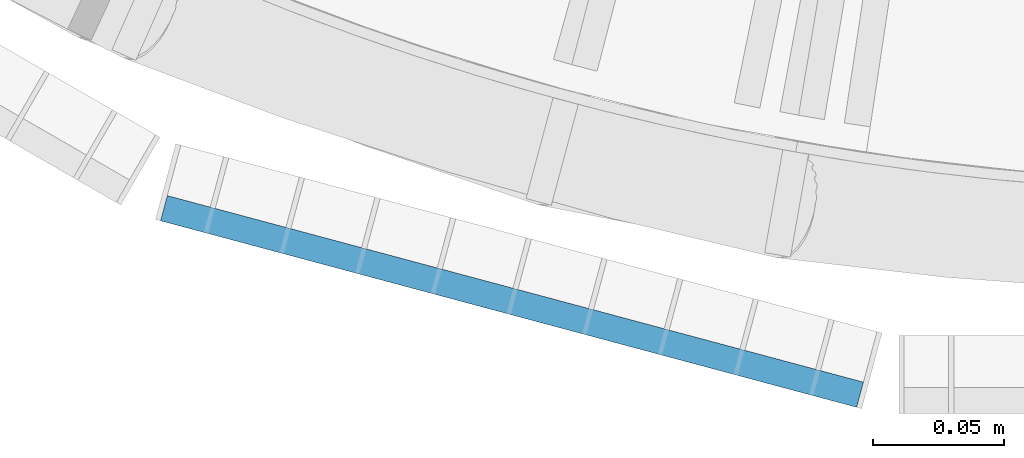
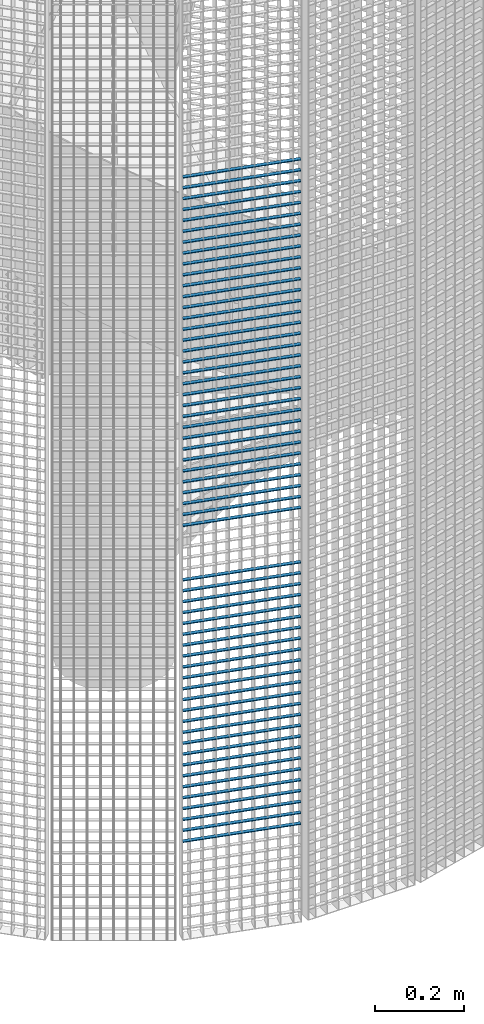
# One storey, part 386 of 1183: 58 beams, 1 element without a shape of its own.
"""IFC2X3 building model written with IfcOpenShell, lengths in millimetres."""

from ifc_helpers import new_model, si_unit, frame, origin_with_axes, origin_2d_with_axis, place, context, subcontext, project, spatial, rectangle, extrude, material, type_object, element, aggregate, save


model = new_model("IFC2X3")

# Units and contexts
model_context = context("Model", 3, precision=1e-05, world=origin_with_axes())
body_context = subcontext(model_context, "Body", "Model", "MODEL_VIEW")
ifc_project = project(units=[si_unit("LENGTHUNIT", "METRE", prefix="MILLI"), si_unit("AREAUNIT", "SQUARE_METRE"), si_unit("VOLUMEUNIT", "CUBIC_METRE"), si_unit("MASSUNIT", "GRAM", prefix="KILO"), si_unit("TIMEUNIT", "SECOND"), si_unit("PLANEANGLEUNIT", "RADIAN"), si_unit("SOLIDANGLEUNIT", "STERADIAN"), si_unit("THERMODYNAMICTEMPERATUREUNIT", "DEGREE_CELSIUS"), si_unit("LUMINOUSINTENSITYUNIT", "LUMEN")], contexts=[model_context])

# Site, building, storey
site_placement = place(None, origin_with_axes())
site = spatial("IfcSite", under=ifc_project, at=site_placement, Name="Undefined", CompositionType="ELEMENT")
building_placement = place(site_placement, origin_with_axes())
building = spatial("IfcBuilding", under=site, at=building_placement, Name="Undefined", CompositionType="ELEMENT")
storey_placement = place(building_placement, origin_with_axes())
storey = spatial("IfcBuildingStorey", under=building, at=storey_placement, Name="Undefined", CompositionType="ELEMENT", Elevation=0.0)

# Assembly, beams
assembly_placement = place(storey_placement, origin_with_axes())
assembly = element("IfcElementAssembly", 1, at=assembly_placement, inside=storey, Name="BORDURE", AssemblyPlace="NOTDEFINED", PredefinedType="NOTDEFINED")
ifc_material = material(Name="STEEL/S235JR")
beam_type = type_object("IfcBeamType", Name="PL2*10", PredefinedType="NOTDEFINED")
beam_1_placement = place(assembly_placement, frame((21445.1040732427, -1111.25508286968, 2100.0), z_axis=(-0.258819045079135, -0.965925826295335, 0.0), x_axis=(-0.965925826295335, 0.258819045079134, 0.0)))
beam_1 = element("IfcBeam", 2, at=beam_1_placement, type_object=beam_type, material=ifc_material, Name="ENTRETOISE", context=body_context, shape_type="SweptSolid", body=[
    extrude(rectangle(XDim=2.0, YDim=10.0, at=origin_2d_with_axis()), frame((275.999999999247, 9.09494701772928e-13, 1.53210777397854e-14), z_axis=(-1.0, 0.0, 0.0), x_axis=(0.0, -1.0, 0.0)), (0.0, 0.0, 1.0), 276.0),
])
beam_2_placement = place(assembly_placement, frame((21445.1040732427, -1111.25508286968, 2070.0), z_axis=(-0.258819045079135, -0.965925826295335, 0.0), x_axis=(-0.965925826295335, 0.258819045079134, 0.0)))
beam_2 = element("IfcBeam", 3, at=beam_2_placement, type_object=beam_type, material=ifc_material, Name="ENTRETOISE", context=body_context, shape_type="SweptSolid", body=[
    extrude(rectangle(XDim=2.0, YDim=10.0, at=origin_2d_with_axis()), frame((275.999999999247, 9.09494701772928e-13, 1.53210777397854e-14), z_axis=(-1.0, 0.0, 0.0), x_axis=(0.0, -1.0, 0.0)), (0.0, 0.0, 1.0), 276.0),
])
beam_3_placement = place(assembly_placement, frame((21445.1040732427, -1111.25508286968, 2040.0), z_axis=(-0.258819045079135, -0.965925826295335, 0.0), x_axis=(-0.965925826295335, 0.258819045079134, 0.0)))
beam_3 = element("IfcBeam", 4, at=beam_3_placement, type_object=beam_type, material=ifc_material, Name="ENTRETOISE", context=body_context, shape_type="SweptSolid", body=[
    extrude(rectangle(XDim=2.0, YDim=10.0, at=origin_2d_with_axis()), frame((275.999999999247, 9.09494701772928e-13, 1.53210777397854e-14), z_axis=(-1.0, 0.0, 0.0), x_axis=(0.0, -1.0, 0.0)), (0.0, 0.0, 1.0), 276.0),
])
beam_4_placement = place(assembly_placement, frame((21445.1040732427, -1111.25508286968, 2010.0), z_axis=(-0.258819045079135, -0.965925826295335, 0.0), x_axis=(-0.965925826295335, 0.258819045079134, 0.0)))
beam_4 = element("IfcBeam", 5, at=beam_4_placement, type_object=beam_type, material=ifc_material, Name="ENTRETOISE", context=body_context, shape_type="SweptSolid", body=[
    extrude(rectangle(XDim=2.0, YDim=10.0, at=origin_2d_with_axis()), frame((275.999999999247, 9.09494701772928e-13, 1.53210777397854e-14), z_axis=(-1.0, 0.0, 0.0), x_axis=(0.0, -1.0, 0.0)), (0.0, 0.0, 1.0), 276.0),
])
beam_5_placement = place(assembly_placement, frame((21445.1040732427, -1111.25508286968, 1980.0), z_axis=(-0.258819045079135, -0.965925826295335, 0.0), x_axis=(-0.965925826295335, 0.258819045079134, 0.0)))
beam_5 = element("IfcBeam", 6, at=beam_5_placement, type_object=beam_type, material=ifc_material, Name="ENTRETOISE", context=body_context, shape_type="SweptSolid", body=[
    extrude(rectangle(XDim=2.0, YDim=10.0, at=origin_2d_with_axis()), frame((275.999999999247, 9.09494701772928e-13, 1.53210777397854e-14), z_axis=(-1.0, 0.0, 0.0), x_axis=(0.0, -1.0, 0.0)), (0.0, 0.0, 1.0), 276.0),
])
beam_6_placement = place(assembly_placement, frame((21445.1040732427, -1111.25508286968, 1950.0), z_axis=(-0.258819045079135, -0.965925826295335, 0.0), x_axis=(-0.965925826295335, 0.258819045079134, 0.0)))
beam_6 = element("IfcBeam", 7, at=beam_6_placement, type_object=beam_type, material=ifc_material, Name="ENTRETOISE", context=body_context, shape_type="SweptSolid", body=[
    extrude(rectangle(XDim=2.0, YDim=10.0, at=origin_2d_with_axis()), frame((275.999999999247, 9.09494701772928e-13, 1.53210777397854e-14), z_axis=(-1.0, 0.0, 0.0), x_axis=(0.0, -1.0, 0.0)), (0.0, 0.0, 1.0), 276.0),
])
beam_7_placement = place(assembly_placement, frame((21445.1040732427, -1111.25508286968, 1920.0), z_axis=(-0.258819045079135, -0.965925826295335, 0.0), x_axis=(-0.965925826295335, 0.258819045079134, 0.0)))
beam_7 = element("IfcBeam", 8, at=beam_7_placement, type_object=beam_type, material=ifc_material, Name="ENTRETOISE", context=body_context, shape_type="SweptSolid", body=[
    extrude(rectangle(XDim=2.0, YDim=10.0, at=origin_2d_with_axis()), frame((275.999999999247, 9.09494701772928e-13, 1.53210777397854e-14), z_axis=(-1.0, 0.0, 0.0), x_axis=(0.0, -1.0, 0.0)), (0.0, 0.0, 1.0), 276.0),
])
beam_8_placement = place(assembly_placement, frame((21445.1040732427, -1111.25508286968, 1890.0), z_axis=(-0.258819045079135, -0.965925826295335, 0.0), x_axis=(-0.965925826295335, 0.258819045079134, 0.0)))
beam_8 = element("IfcBeam", 9, at=beam_8_placement, type_object=beam_type, material=ifc_material, Name="ENTRETOISE", context=body_context, shape_type="SweptSolid", body=[
    extrude(rectangle(XDim=2.0, YDim=10.0, at=origin_2d_with_axis()), frame((275.999999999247, 9.09494701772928e-13, 1.53210777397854e-14), z_axis=(-1.0, 0.0, 0.0), x_axis=(0.0, -1.0, 0.0)), (0.0, 0.0, 1.0), 276.0),
])
beam_9_placement = place(assembly_placement, frame((21445.1040732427, -1111.25508286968, 1860.0), z_axis=(-0.258819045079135, -0.965925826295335, 0.0), x_axis=(-0.965925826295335, 0.258819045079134, 0.0)))
beam_9 = element("IfcBeam", 10, at=beam_9_placement, type_object=beam_type, material=ifc_material, Name="ENTRETOISE", context=body_context, shape_type="SweptSolid", body=[
    extrude(rectangle(XDim=2.0, YDim=10.0, at=origin_2d_with_axis()), frame((275.999999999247, 9.09494701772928e-13, 1.53210777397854e-14), z_axis=(-1.0, 0.0, 0.0), x_axis=(0.0, -1.0, 0.0)), (0.0, 0.0, 1.0), 276.0),
])
beam_10_placement = place(assembly_placement, frame((21445.1040732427, -1111.25508286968, 1830.0), z_axis=(-0.258819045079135, -0.965925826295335, 0.0), x_axis=(-0.965925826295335, 0.258819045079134, 0.0)))
beam_10 = element("IfcBeam", 11, at=beam_10_placement, type_object=beam_type, material=ifc_material, Name="ENTRETOISE", context=body_context, shape_type="SweptSolid", body=[
    extrude(rectangle(XDim=2.0, YDim=10.0, at=origin_2d_with_axis()), frame((275.999999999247, 9.09494701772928e-13, 1.53210777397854e-14), z_axis=(-1.0, 0.0, 0.0), x_axis=(0.0, -1.0, 0.0)), (0.0, 0.0, 1.0), 276.0),
])
beam_11_placement = place(assembly_placement, frame((21445.1040732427, -1111.25508286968, 1800.0), z_axis=(-0.258819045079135, -0.965925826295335, 0.0), x_axis=(-0.965925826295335, 0.258819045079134, 0.0)))
beam_11 = element("IfcBeam", 12, at=beam_11_placement, type_object=beam_type, material=ifc_material, Name="ENTRETOISE", context=body_context, shape_type="SweptSolid", body=[
    extrude(rectangle(XDim=2.0, YDim=10.0, at=origin_2d_with_axis()), frame((275.999999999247, 9.09494701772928e-13, 1.53210777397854e-14), z_axis=(-1.0, 0.0, 0.0), x_axis=(0.0, -1.0, 0.0)), (0.0, 0.0, 1.0), 276.0),
])
beam_12_placement = place(assembly_placement, frame((21445.1040732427, -1111.25508286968, 1770.0), z_axis=(-0.258819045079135, -0.965925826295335, 0.0), x_axis=(-0.965925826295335, 0.258819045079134, 0.0)))
beam_12 = element("IfcBeam", 13, at=beam_12_placement, type_object=beam_type, material=ifc_material, Name="ENTRETOISE", context=body_context, shape_type="SweptSolid", body=[
    extrude(rectangle(XDim=2.0, YDim=10.0, at=origin_2d_with_axis()), frame((275.999999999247, 9.09494701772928e-13, 1.53210777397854e-14), z_axis=(-1.0, 0.0, 0.0), x_axis=(0.0, -1.0, 0.0)), (0.0, 0.0, 1.0), 276.0),
])
beam_13_placement = place(assembly_placement, frame((21445.1040732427, -1111.25508286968, 1740.0), z_axis=(-0.258819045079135, -0.965925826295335, 0.0), x_axis=(-0.965925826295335, 0.258819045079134, 0.0)))
beam_13 = element("IfcBeam", 14, at=beam_13_placement, type_object=beam_type, material=ifc_material, Name="ENTRETOISE", context=body_context, shape_type="SweptSolid", body=[
    extrude(rectangle(XDim=2.0, YDim=10.0, at=origin_2d_with_axis()), frame((275.999999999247, 9.09494701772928e-13, 1.53210777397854e-14), z_axis=(-1.0, 0.0, 0.0), x_axis=(0.0, -1.0, 0.0)), (0.0, 0.0, 1.0), 276.0),
])
beam_14_placement = place(assembly_placement, frame((21445.1040732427, -1111.25508286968, 1710.0), z_axis=(-0.258819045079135, -0.965925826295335, 0.0), x_axis=(-0.965925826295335, 0.258819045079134, 0.0)))
beam_14 = element("IfcBeam", 15, at=beam_14_placement, type_object=beam_type, material=ifc_material, Name="ENTRETOISE", context=body_context, shape_type="SweptSolid", body=[
    extrude(rectangle(XDim=2.0, YDim=10.0, at=origin_2d_with_axis()), frame((275.999999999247, 9.09494701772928e-13, 1.53210777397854e-14), z_axis=(-1.0, 0.0, 0.0), x_axis=(0.0, -1.0, 0.0)), (0.0, 0.0, 1.0), 276.0),
])
beam_15_placement = place(assembly_placement, frame((21445.1040732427, -1111.25508286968, 1680.0), z_axis=(-0.258819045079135, -0.965925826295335, 0.0), x_axis=(-0.965925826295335, 0.258819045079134, 0.0)))
beam_15 = element("IfcBeam", 16, at=beam_15_placement, type_object=beam_type, material=ifc_material, Name="ENTRETOISE", context=body_context, shape_type="SweptSolid", body=[
    extrude(rectangle(XDim=2.0, YDim=10.0, at=origin_2d_with_axis()), frame((275.999999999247, 9.09494701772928e-13, 1.53210777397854e-14), z_axis=(-1.0, 0.0, 0.0), x_axis=(0.0, -1.0, 0.0)), (0.0, 0.0, 1.0), 276.0),
])
beam_16_placement = place(assembly_placement, frame((21445.1040732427, -1111.25508286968, 1650.0), z_axis=(-0.258819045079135, -0.965925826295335, 0.0), x_axis=(-0.965925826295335, 0.258819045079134, 0.0)))
beam_16 = element("IfcBeam", 17, at=beam_16_placement, type_object=beam_type, material=ifc_material, Name="ENTRETOISE", context=body_context, shape_type="SweptSolid", body=[
    extrude(rectangle(XDim=2.0, YDim=10.0, at=origin_2d_with_axis()), frame((275.999999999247, 9.09494701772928e-13, 1.53210777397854e-14), z_axis=(-1.0, 0.0, 0.0), x_axis=(0.0, -1.0, 0.0)), (0.0, 0.0, 1.0), 276.0),
])
beam_17_placement = place(assembly_placement, frame((21445.1040732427, -1111.25508286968, 1620.0), z_axis=(-0.258819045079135, -0.965925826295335, 0.0), x_axis=(-0.965925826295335, 0.258819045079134, 0.0)))
beam_17 = element("IfcBeam", 18, at=beam_17_placement, type_object=beam_type, material=ifc_material, Name="ENTRETOISE", context=body_context, shape_type="SweptSolid", body=[
    extrude(rectangle(XDim=2.0, YDim=10.0, at=origin_2d_with_axis()), frame((275.999999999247, 9.09494701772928e-13, 1.53210777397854e-14), z_axis=(-1.0, 0.0, 0.0), x_axis=(0.0, -1.0, 0.0)), (0.0, 0.0, 1.0), 276.0),
])
beam_18_placement = place(assembly_placement, frame((21445.1040732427, -1111.25508286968, 1590.0), z_axis=(-0.258819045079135, -0.965925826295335, 0.0), x_axis=(-0.965925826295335, 0.258819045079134, 0.0)))
beam_18 = element("IfcBeam", 19, at=beam_18_placement, type_object=beam_type, material=ifc_material, Name="ENTRETOISE", context=body_context, shape_type="SweptSolid", body=[
    extrude(rectangle(XDim=2.0, YDim=10.0, at=origin_2d_with_axis()), frame((275.999999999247, 9.09494701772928e-13, 1.53210777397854e-14), z_axis=(-1.0, 0.0, 0.0), x_axis=(0.0, -1.0, 0.0)), (0.0, 0.0, 1.0), 276.0),
])
beam_19_placement = place(assembly_placement, frame((21445.1040732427, -1111.25508286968, 1560.0), z_axis=(-0.258819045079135, -0.965925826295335, 0.0), x_axis=(-0.965925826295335, 0.258819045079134, 0.0)))
beam_19 = element("IfcBeam", 20, at=beam_19_placement, type_object=beam_type, material=ifc_material, Name="ENTRETOISE", context=body_context, shape_type="SweptSolid", body=[
    extrude(rectangle(XDim=2.0, YDim=10.0, at=origin_2d_with_axis()), frame((275.999999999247, 9.09494701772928e-13, 1.53210777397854e-14), z_axis=(-1.0, 0.0, 0.0), x_axis=(0.0, -1.0, 0.0)), (0.0, 0.0, 1.0), 276.0),
])
beam_20_placement = place(assembly_placement, frame((21445.1040732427, -1111.25508286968, 1530.0), z_axis=(-0.258819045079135, -0.965925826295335, 0.0), x_axis=(-0.965925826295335, 0.258819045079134, 0.0)))
beam_20 = element("IfcBeam", 21, at=beam_20_placement, type_object=beam_type, material=ifc_material, Name="ENTRETOISE", context=body_context, shape_type="SweptSolid", body=[
    extrude(rectangle(XDim=2.0, YDim=10.0, at=origin_2d_with_axis()), frame((275.999999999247, 9.09494701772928e-13, 1.53210777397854e-14), z_axis=(-1.0, 0.0, 0.0), x_axis=(0.0, -1.0, 0.0)), (0.0, 0.0, 1.0), 276.0),
])
beam_21_placement = place(assembly_placement, frame((21445.1040732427, -1111.25508286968, 1500.0), z_axis=(-0.258819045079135, -0.965925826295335, 0.0), x_axis=(-0.965925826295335, 0.258819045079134, 0.0)))
beam_21 = element("IfcBeam", 22, at=beam_21_placement, type_object=beam_type, material=ifc_material, Name="ENTRETOISE", context=body_context, shape_type="SweptSolid", body=[
    extrude(rectangle(XDim=2.0, YDim=10.0, at=origin_2d_with_axis()), frame((275.999999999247, 9.09494701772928e-13, 1.53210777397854e-14), z_axis=(-1.0, 0.0, 0.0), x_axis=(0.0, -1.0, 0.0)), (0.0, 0.0, 1.0), 276.0),
])
beam_22_placement = place(assembly_placement, frame((21445.1040732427, -1111.25508286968, 1470.0), z_axis=(-0.258819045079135, -0.965925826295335, 0.0), x_axis=(-0.965925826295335, 0.258819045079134, 0.0)))
beam_22 = element("IfcBeam", 23, at=beam_22_placement, type_object=beam_type, material=ifc_material, Name="ENTRETOISE", context=body_context, shape_type="SweptSolid", body=[
    extrude(rectangle(XDim=2.0, YDim=10.0, at=origin_2d_with_axis()), frame((275.999999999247, 9.09494701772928e-13, 1.53210777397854e-14), z_axis=(-1.0, 0.0, 0.0), x_axis=(0.0, -1.0, 0.0)), (0.0, 0.0, 1.0), 276.0),
])
beam_23_placement = place(assembly_placement, frame((21445.1040732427, -1111.25508286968, 1440.0), z_axis=(-0.258819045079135, -0.965925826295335, 0.0), x_axis=(-0.965925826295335, 0.258819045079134, 0.0)))
beam_23 = element("IfcBeam", 24, at=beam_23_placement, type_object=beam_type, material=ifc_material, Name="ENTRETOISE", context=body_context, shape_type="SweptSolid", body=[
    extrude(rectangle(XDim=2.0, YDim=10.0, at=origin_2d_with_axis()), frame((275.999999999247, 9.09494701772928e-13, 1.53210777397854e-14), z_axis=(-1.0, 0.0, 0.0), x_axis=(0.0, -1.0, 0.0)), (0.0, 0.0, 1.0), 276.0),
])
beam_24_placement = place(assembly_placement, frame((21445.1040732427, -1111.25508286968, 1410.0), z_axis=(-0.258819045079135, -0.965925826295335, 0.0), x_axis=(-0.965925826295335, 0.258819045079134, 0.0)))
beam_24 = element("IfcBeam", 25, at=beam_24_placement, type_object=beam_type, material=ifc_material, Name="ENTRETOISE", context=body_context, shape_type="SweptSolid", body=[
    extrude(rectangle(XDim=2.0, YDim=10.0, at=origin_2d_with_axis()), frame((275.999999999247, 9.09494701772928e-13, 1.53210777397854e-14), z_axis=(-1.0, 0.0, 0.0), x_axis=(0.0, -1.0, 0.0)), (0.0, 0.0, 1.0), 276.0),
])
beam_25_placement = place(assembly_placement, frame((21445.1040732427, -1111.25508286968, 1380.0), z_axis=(-0.258819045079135, -0.965925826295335, 0.0), x_axis=(-0.965925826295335, 0.258819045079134, 0.0)))
beam_25 = element("IfcBeam", 26, at=beam_25_placement, type_object=beam_type, material=ifc_material, Name="ENTRETOISE", context=body_context, shape_type="SweptSolid", body=[
    extrude(rectangle(XDim=2.0, YDim=10.0, at=origin_2d_with_axis()), frame((275.999999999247, 9.09494701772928e-13, 1.53210777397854e-14), z_axis=(-1.0, 0.0, 0.0), x_axis=(0.0, -1.0, 0.0)), (0.0, 0.0, 1.0), 276.0),
])
beam_26_placement = place(assembly_placement, frame((21445.1040732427, -1111.25508286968, 1350.0), z_axis=(-0.258819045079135, -0.965925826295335, 0.0), x_axis=(-0.965925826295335, 0.258819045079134, 0.0)))
beam_26 = element("IfcBeam", 27, at=beam_26_placement, type_object=beam_type, material=ifc_material, Name="ENTRETOISE", context=body_context, shape_type="SweptSolid", body=[
    extrude(rectangle(XDim=2.0, YDim=10.0, at=origin_2d_with_axis()), frame((275.999999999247, 9.09494701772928e-13, 1.53210777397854e-14), z_axis=(-1.0, 0.0, 0.0), x_axis=(0.0, -1.0, 0.0)), (0.0, 0.0, 1.0), 276.0),
])
beam_27_placement = place(assembly_placement, frame((21445.1040732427, -1111.25508286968, 1320.0), z_axis=(-0.258819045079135, -0.965925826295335, 0.0), x_axis=(-0.965925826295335, 0.258819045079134, 0.0)))
beam_27 = element("IfcBeam", 28, at=beam_27_placement, type_object=beam_type, material=ifc_material, Name="ENTRETOISE", context=body_context, shape_type="SweptSolid", body=[
    extrude(rectangle(XDim=2.0, YDim=10.0, at=origin_2d_with_axis()), frame((275.999999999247, 9.09494701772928e-13, 1.53210777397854e-14), z_axis=(-1.0, 0.0, 0.0), x_axis=(0.0, -1.0, 0.0)), (0.0, 0.0, 1.0), 276.0),
])
beam_28_placement = place(assembly_placement, frame((21445.1040732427, -1111.25508286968, 1290.0), z_axis=(-0.258819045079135, -0.965925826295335, 0.0), x_axis=(-0.965925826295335, 0.258819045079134, 0.0)))
beam_28 = element("IfcBeam", 29, at=beam_28_placement, type_object=beam_type, material=ifc_material, Name="ENTRETOISE", context=body_context, shape_type="SweptSolid", body=[
    extrude(rectangle(XDim=2.0, YDim=10.0, at=origin_2d_with_axis()), frame((275.999999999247, 9.09494701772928e-13, 1.53210777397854e-14), z_axis=(-1.0, 0.0, 0.0), x_axis=(0.0, -1.0, 0.0)), (0.0, 0.0, 1.0), 276.0),
])
beam_29_placement = place(assembly_placement, frame((21445.1040732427, -1111.25508286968, 1260.0), z_axis=(-0.258819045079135, -0.965925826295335, 0.0), x_axis=(-0.965925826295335, 0.258819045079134, 0.0)))
beam_29 = element("IfcBeam", 30, at=beam_29_placement, type_object=beam_type, material=ifc_material, Name="ENTRETOISE", context=body_context, shape_type="SweptSolid", body=[
    extrude(rectangle(XDim=2.0, YDim=10.0, at=origin_2d_with_axis()), frame((275.999999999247, 9.09494701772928e-13, 1.53210777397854e-14), z_axis=(-1.0, 0.0, 0.0), x_axis=(0.0, -1.0, 0.0)), (0.0, 0.0, 1.0), 276.0),
])
beam_30_placement = place(assembly_placement, frame((21445.1040732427, -1111.25508286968, 1230.0), z_axis=(-0.258819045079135, -0.965925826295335, 0.0), x_axis=(-0.965925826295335, 0.258819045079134, 0.0)))
beam_30 = element("IfcBeam", 31, at=beam_30_placement, type_object=beam_type, material=ifc_material, Name="ENTRETOISE", context=body_context, shape_type="SweptSolid", body=[
    extrude(rectangle(XDim=2.0, YDim=10.0, at=origin_2d_with_axis()), frame((275.999999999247, 9.09494701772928e-13, 1.53210777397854e-14), z_axis=(-1.0, 0.0, 0.0), x_axis=(0.0, -1.0, 0.0)), (0.0, 0.0, 1.0), 276.0),
])
beam_31_placement = place(assembly_placement, frame((21445.1040732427, -1111.25508286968, 1200.0), z_axis=(-0.258819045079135, -0.965925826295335, 0.0), x_axis=(-0.965925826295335, 0.258819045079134, 0.0)))
beam_31 = element("IfcBeam", 32, at=beam_31_placement, type_object=beam_type, material=ifc_material, Name="ENTRETOISE", context=body_context, shape_type="SweptSolid", body=[
    extrude(rectangle(XDim=2.0, YDim=10.0, at=origin_2d_with_axis()), frame((275.999999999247, 9.09494701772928e-13, 1.53210777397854e-14), z_axis=(-1.0, 0.0, 0.0), x_axis=(0.0, -1.0, 0.0)), (0.0, 0.0, 1.0), 276.0),
])
beam_32_placement = place(assembly_placement, frame((21445.1040732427, -1111.25508286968, 1170.0), z_axis=(-0.258819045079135, -0.965925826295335, 0.0), x_axis=(-0.965925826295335, 0.258819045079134, 0.0)))
beam_32 = element("IfcBeam", 33, at=beam_32_placement, type_object=beam_type, material=ifc_material, Name="ENTRETOISE", context=body_context, shape_type="SweptSolid", body=[
    extrude(rectangle(XDim=2.0, YDim=10.0, at=origin_2d_with_axis()), frame((275.999999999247, 9.09494701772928e-13, 1.53210777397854e-14), z_axis=(-1.0, 0.0, 0.0), x_axis=(0.0, -1.0, 0.0)), (0.0, 0.0, 1.0), 276.0),
])
beam_33_placement = place(assembly_placement, frame((21445.1040732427, -1111.25508286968, 1140.0), z_axis=(-0.258819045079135, -0.965925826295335, 0.0), x_axis=(-0.965925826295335, 0.258819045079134, 0.0)))
beam_33 = element("IfcBeam", 34, at=beam_33_placement, type_object=beam_type, material=ifc_material, Name="ENTRETOISE", context=body_context, shape_type="SweptSolid", body=[
    extrude(rectangle(XDim=2.0, YDim=10.0, at=origin_2d_with_axis()), frame((275.999999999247, 9.09494701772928e-13, 1.53210777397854e-14), z_axis=(-1.0, 0.0, 0.0), x_axis=(0.0, -1.0, 0.0)), (0.0, 0.0, 1.0), 276.0),
])
beam_34_placement = place(assembly_placement, frame((21445.1040732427, -1111.25508286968, 719.999999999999), z_axis=(-0.258819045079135, -0.965925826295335, 0.0), x_axis=(-0.965925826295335, 0.258819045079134, 0.0)))
beam_34 = element("IfcBeam", 35, at=beam_34_placement, type_object=beam_type, material=ifc_material, Name="ENTRETOISE", context=body_context, shape_type="SweptSolid", body=[
    extrude(rectangle(XDim=2.0, YDim=10.0, at=origin_2d_with_axis()), frame((275.999999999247, 9.09494701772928e-13, 1.53210777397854e-14), z_axis=(-1.0, 0.0, 0.0), x_axis=(0.0, -1.0, 0.0)), (0.0, 0.0, 1.0), 276.0),
])
beam_35_placement = place(assembly_placement, frame((21445.1040732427, -1111.25508286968, 689.999999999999), z_axis=(-0.258819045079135, -0.965925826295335, 0.0), x_axis=(-0.965925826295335, 0.258819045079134, 0.0)))
beam_35 = element("IfcBeam", 36, at=beam_35_placement, type_object=beam_type, material=ifc_material, Name="ENTRETOISE", context=body_context, shape_type="SweptSolid", body=[
    extrude(rectangle(XDim=2.0, YDim=10.0, at=origin_2d_with_axis()), frame((275.999999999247, 9.09494701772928e-13, 1.53210777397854e-14), z_axis=(-1.0, 0.0, 0.0), x_axis=(0.0, -1.0, 0.0)), (0.0, 0.0, 1.0), 276.0),
])
beam_36_placement = place(assembly_placement, frame((21445.1040732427, -1111.25508286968, 749.999999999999), z_axis=(-0.258819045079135, -0.965925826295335, 0.0), x_axis=(-0.965925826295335, 0.258819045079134, 0.0)))
beam_36 = element("IfcBeam", 37, at=beam_36_placement, type_object=beam_type, material=ifc_material, Name="ENTRETOISE", context=body_context, shape_type="SweptSolid", body=[
    extrude(rectangle(XDim=2.0, YDim=10.0, at=origin_2d_with_axis()), frame((275.999999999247, 9.09494701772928e-13, 1.53210777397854e-14), z_axis=(-1.0, 0.0, 0.0), x_axis=(0.0, -1.0, 0.0)), (0.0, 0.0, 1.0), 276.0),
])
beam_37_placement = place(assembly_placement, frame((21445.1040732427, -1111.25508286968, 659.999999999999), z_axis=(-0.258819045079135, -0.965925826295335, 0.0), x_axis=(-0.965925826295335, 0.258819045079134, 0.0)))
beam_37 = element("IfcBeam", 38, at=beam_37_placement, type_object=beam_type, material=ifc_material, Name="ENTRETOISE", context=body_context, shape_type="SweptSolid", body=[
    extrude(rectangle(XDim=2.0, YDim=10.0, at=origin_2d_with_axis()), frame((275.999999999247, 9.09494701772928e-13, 1.53210777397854e-14), z_axis=(-1.0, 0.0, 0.0), x_axis=(0.0, -1.0, 0.0)), (0.0, 0.0, 1.0), 276.0),
])
beam_38_placement = place(assembly_placement, frame((21445.1040732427, -1111.25508286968, 629.999999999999), z_axis=(-0.258819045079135, -0.965925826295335, 0.0), x_axis=(-0.965925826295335, 0.258819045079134, 0.0)))
beam_38 = element("IfcBeam", 39, at=beam_38_placement, type_object=beam_type, material=ifc_material, Name="ENTRETOISE", context=body_context, shape_type="SweptSolid", body=[
    extrude(rectangle(XDim=2.0, YDim=10.0, at=origin_2d_with_axis()), frame((275.999999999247, 9.09494701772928e-13, 1.53210777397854e-14), z_axis=(-1.0, 0.0, 0.0), x_axis=(0.0, -1.0, 0.0)), (0.0, 0.0, 1.0), 276.0),
])
beam_39_placement = place(assembly_placement, frame((21445.1040732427, -1111.25508286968, 779.999999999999), z_axis=(-0.258819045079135, -0.965925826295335, 0.0), x_axis=(-0.965925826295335, 0.258819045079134, 0.0)))
beam_39 = element("IfcBeam", 40, at=beam_39_placement, type_object=beam_type, material=ifc_material, Name="ENTRETOISE", context=body_context, shape_type="SweptSolid", body=[
    extrude(rectangle(XDim=2.0, YDim=10.0, at=origin_2d_with_axis()), frame((275.999999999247, 9.09494701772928e-13, 1.53210777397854e-14), z_axis=(-1.0, 0.0, 0.0), x_axis=(0.0, -1.0, 0.0)), (0.0, 0.0, 1.0), 276.0),
])
beam_40_placement = place(assembly_placement, frame((21445.1040732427, -1111.25508286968, 599.999999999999), z_axis=(-0.258819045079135, -0.965925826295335, 0.0), x_axis=(-0.965925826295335, 0.258819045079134, 0.0)))
beam_40 = element("IfcBeam", 41, at=beam_40_placement, type_object=beam_type, material=ifc_material, Name="ENTRETOISE", context=body_context, shape_type="SweptSolid", body=[
    extrude(rectangle(XDim=2.0, YDim=10.0, at=origin_2d_with_axis()), frame((275.999999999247, 9.09494701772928e-13, 1.53210777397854e-14), z_axis=(-1.0, 0.0, 0.0), x_axis=(0.0, -1.0, 0.0)), (0.0, 0.0, 1.0), 276.0),
])
beam_41_placement = place(assembly_placement, frame((21445.1040732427, -1111.25508286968, 809.999999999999), z_axis=(-0.258819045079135, -0.965925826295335, 0.0), x_axis=(-0.965925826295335, 0.258819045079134, 0.0)))
beam_41 = element("IfcBeam", 42, at=beam_41_placement, type_object=beam_type, material=ifc_material, Name="ENTRETOISE", context=body_context, shape_type="SweptSolid", body=[
    extrude(rectangle(XDim=2.0, YDim=10.0, at=origin_2d_with_axis()), frame((275.999999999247, 9.09494701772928e-13, 1.53210777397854e-14), z_axis=(-1.0, 0.0, 0.0), x_axis=(0.0, -1.0, 0.0)), (0.0, 0.0, 1.0), 276.0),
])
beam_42_placement = place(assembly_placement, frame((21445.1040732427, -1111.25508286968, 569.999999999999), z_axis=(-0.258819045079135, -0.965925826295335, 0.0), x_axis=(-0.965925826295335, 0.258819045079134, 0.0)))
beam_42 = element("IfcBeam", 43, at=beam_42_placement, type_object=beam_type, material=ifc_material, Name="ENTRETOISE", context=body_context, shape_type="SweptSolid", body=[
    extrude(rectangle(XDim=2.0, YDim=10.0, at=origin_2d_with_axis()), frame((275.999999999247, 9.09494701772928e-13, 1.53210777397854e-14), z_axis=(-1.0, 0.0, 0.0), x_axis=(0.0, -1.0, 0.0)), (0.0, 0.0, 1.0), 276.0),
])
beam_43_placement = place(assembly_placement, frame((21445.1040732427, -1111.25508286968, 539.999999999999), z_axis=(-0.258819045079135, -0.965925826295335, 0.0), x_axis=(-0.965925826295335, 0.258819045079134, 0.0)))
beam_43 = element("IfcBeam", 44, at=beam_43_placement, type_object=beam_type, material=ifc_material, Name="ENTRETOISE", context=body_context, shape_type="SweptSolid", body=[
    extrude(rectangle(XDim=2.0, YDim=10.0, at=origin_2d_with_axis()), frame((275.999999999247, 9.09494701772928e-13, 1.53210777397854e-14), z_axis=(-1.0, 0.0, 0.0), x_axis=(0.0, -1.0, 0.0)), (0.0, 0.0, 1.0), 276.0),
])
beam_44_placement = place(assembly_placement, frame((21445.1040732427, -1111.25508286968, 839.999999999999), z_axis=(-0.258819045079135, -0.965925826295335, 0.0), x_axis=(-0.965925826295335, 0.258819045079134, 0.0)))
beam_44 = element("IfcBeam", 45, at=beam_44_placement, type_object=beam_type, material=ifc_material, Name="ENTRETOISE", context=body_context, shape_type="SweptSolid", body=[
    extrude(rectangle(XDim=2.0, YDim=10.0, at=origin_2d_with_axis()), frame((275.999999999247, 9.09494701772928e-13, 1.53210777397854e-14), z_axis=(-1.0, 0.0, 0.0), x_axis=(0.0, -1.0, 0.0)), (0.0, 0.0, 1.0), 276.0),
])
beam_45_placement = place(assembly_placement, frame((21445.1040732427, -1111.25508286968, 509.999999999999), z_axis=(-0.258819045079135, -0.965925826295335, 0.0), x_axis=(-0.965925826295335, 0.258819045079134, 0.0)))
beam_45 = element("IfcBeam", 46, at=beam_45_placement, type_object=beam_type, material=ifc_material, Name="ENTRETOISE", context=body_context, shape_type="SweptSolid", body=[
    extrude(rectangle(XDim=2.0, YDim=10.0, at=origin_2d_with_axis()), frame((275.999999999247, 9.09494701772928e-13, 1.53210777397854e-14), z_axis=(-1.0, 0.0, 0.0), x_axis=(0.0, -1.0, 0.0)), (0.0, 0.0, 1.0), 276.0),
])
beam_46_placement = place(assembly_placement, frame((21445.1040732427, -1111.25508286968, 479.999999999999), z_axis=(-0.258819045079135, -0.965925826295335, 0.0), x_axis=(-0.965925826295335, 0.258819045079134, 0.0)))
beam_46 = element("IfcBeam", 47, at=beam_46_placement, type_object=beam_type, material=ifc_material, Name="ENTRETOISE", context=body_context, shape_type="SweptSolid", body=[
    extrude(rectangle(XDim=2.0, YDim=10.0, at=origin_2d_with_axis()), frame((275.999999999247, 9.09494701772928e-13, 1.53210777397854e-14), z_axis=(-1.0, 0.0, 0.0), x_axis=(0.0, -1.0, 0.0)), (0.0, 0.0, 1.0), 276.0),
])
beam_47_placement = place(assembly_placement, frame((21445.1040732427, -1111.25508286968, 869.999999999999), z_axis=(-0.258819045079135, -0.965925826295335, 0.0), x_axis=(-0.965925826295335, 0.258819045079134, 0.0)))
beam_47 = element("IfcBeam", 48, at=beam_47_placement, type_object=beam_type, material=ifc_material, Name="ENTRETOISE", context=body_context, shape_type="SweptSolid", body=[
    extrude(rectangle(XDim=2.0, YDim=10.0, at=origin_2d_with_axis()), frame((275.999999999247, 9.09494701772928e-13, 1.53210777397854e-14), z_axis=(-1.0, 0.0, 0.0), x_axis=(0.0, -1.0, 0.0)), (0.0, 0.0, 1.0), 276.0),
])
beam_48_placement = place(assembly_placement, frame((21445.1040732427, -1111.25508286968, 449.999999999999), z_axis=(-0.258819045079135, -0.965925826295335, 0.0), x_axis=(-0.965925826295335, 0.258819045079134, 0.0)))
beam_48 = element("IfcBeam", 49, at=beam_48_placement, type_object=beam_type, material=ifc_material, Name="ENTRETOISE", context=body_context, shape_type="SweptSolid", body=[
    extrude(rectangle(XDim=2.0, YDim=10.0, at=origin_2d_with_axis()), frame((275.999999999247, 9.09494701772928e-13, 1.53210777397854e-14), z_axis=(-1.0, 0.0, 0.0), x_axis=(0.0, -1.0, 0.0)), (0.0, 0.0, 1.0), 276.0),
])
beam_49_placement = place(assembly_placement, frame((21445.1040732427, -1111.25508286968, 419.999999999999), z_axis=(-0.258819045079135, -0.965925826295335, 0.0), x_axis=(-0.965925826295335, 0.258819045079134, 0.0)))
beam_49 = element("IfcBeam", 50, at=beam_49_placement, type_object=beam_type, material=ifc_material, Name="ENTRETOISE", context=body_context, shape_type="SweptSolid", body=[
    extrude(rectangle(XDim=2.0, YDim=10.0, at=origin_2d_with_axis()), frame((275.999999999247, 9.09494701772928e-13, 1.53210777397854e-14), z_axis=(-1.0, 0.0, 0.0), x_axis=(0.0, -1.0, 0.0)), (0.0, 0.0, 1.0), 276.0),
])
beam_50_placement = place(assembly_placement, frame((21445.1040732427, -1111.25508286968, 899.999999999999), z_axis=(-0.258819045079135, -0.965925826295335, 0.0), x_axis=(-0.965925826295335, 0.258819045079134, 0.0)))
beam_50 = element("IfcBeam", 51, at=beam_50_placement, type_object=beam_type, material=ifc_material, Name="ENTRETOISE", context=body_context, shape_type="SweptSolid", body=[
    extrude(rectangle(XDim=2.0, YDim=10.0, at=origin_2d_with_axis()), frame((275.999999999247, 9.09494701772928e-13, 1.53210777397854e-14), z_axis=(-1.0, 0.0, 0.0), x_axis=(0.0, -1.0, 0.0)), (0.0, 0.0, 1.0), 276.0),
])
beam_51_placement = place(assembly_placement, frame((21445.1040732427, -1111.25508286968, 389.999999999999), z_axis=(-0.258819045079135, -0.965925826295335, 0.0), x_axis=(-0.965925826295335, 0.258819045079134, 0.0)))
beam_51 = element("IfcBeam", 52, at=beam_51_placement, type_object=beam_type, material=ifc_material, Name="ENTRETOISE", context=body_context, shape_type="SweptSolid", body=[
    extrude(rectangle(XDim=2.0, YDim=10.0, at=origin_2d_with_axis()), frame((275.999999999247, 9.09494701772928e-13, 1.53210777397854e-14), z_axis=(-1.0, 0.0, 0.0), x_axis=(0.0, -1.0, 0.0)), (0.0, 0.0, 1.0), 276.0),
])
beam_52_placement = place(assembly_placement, frame((21445.1040732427, -1111.25508286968, 929.999999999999), z_axis=(-0.258819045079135, -0.965925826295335, 0.0), x_axis=(-0.965925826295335, 0.258819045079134, 0.0)))
beam_52 = element("IfcBeam", 53, at=beam_52_placement, type_object=beam_type, material=ifc_material, Name="ENTRETOISE", context=body_context, shape_type="SweptSolid", body=[
    extrude(rectangle(XDim=2.0, YDim=10.0, at=origin_2d_with_axis()), frame((275.999999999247, 9.09494701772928e-13, 1.53210777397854e-14), z_axis=(-1.0, 0.0, 0.0), x_axis=(0.0, -1.0, 0.0)), (0.0, 0.0, 1.0), 276.0),
])
beam_53_placement = place(assembly_placement, frame((21445.1040732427, -1111.25508286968, 359.999999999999), z_axis=(-0.258819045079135, -0.965925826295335, 0.0), x_axis=(-0.965925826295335, 0.258819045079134, 0.0)))
beam_53 = element("IfcBeam", 54, at=beam_53_placement, type_object=beam_type, material=ifc_material, Name="ENTRETOISE", context=body_context, shape_type="SweptSolid", body=[
    extrude(rectangle(XDim=2.0, YDim=10.0, at=origin_2d_with_axis()), frame((275.999999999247, 9.09494701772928e-13, 1.53210777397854e-14), z_axis=(-1.0, 0.0, 0.0), x_axis=(0.0, -1.0, 0.0)), (0.0, 0.0, 1.0), 276.0),
])
beam_54_placement = place(assembly_placement, frame((21445.1040732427, -1111.25508286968, 329.999999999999), z_axis=(-0.258819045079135, -0.965925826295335, 0.0), x_axis=(-0.965925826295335, 0.258819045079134, 0.0)))
beam_54 = element("IfcBeam", 55, at=beam_54_placement, type_object=beam_type, material=ifc_material, Name="ENTRETOISE", context=body_context, shape_type="SweptSolid", body=[
    extrude(rectangle(XDim=2.0, YDim=10.0, at=origin_2d_with_axis()), frame((275.999999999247, 9.09494701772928e-13, 1.53210777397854e-14), z_axis=(-1.0, 0.0, 0.0), x_axis=(0.0, -1.0, 0.0)), (0.0, 0.0, 1.0), 276.0),
])
beam_55_placement = place(assembly_placement, frame((21445.1040732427, -1111.25508286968, 959.999999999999), z_axis=(-0.258819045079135, -0.965925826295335, 0.0), x_axis=(-0.965925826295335, 0.258819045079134, 0.0)))
beam_55 = element("IfcBeam", 56, at=beam_55_placement, type_object=beam_type, material=ifc_material, Name="ENTRETOISE", context=body_context, shape_type="SweptSolid", body=[
    extrude(rectangle(XDim=2.0, YDim=10.0, at=origin_2d_with_axis()), frame((275.999999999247, 9.09494701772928e-13, 1.53210777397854e-14), z_axis=(-1.0, 0.0, 0.0), x_axis=(0.0, -1.0, 0.0)), (0.0, 0.0, 1.0), 276.0),
])
beam_56_placement = place(assembly_placement, frame((21445.1040732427, -1111.25508286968, 299.999999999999), z_axis=(-0.258819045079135, -0.965925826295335, 0.0), x_axis=(-0.965925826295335, 0.258819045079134, 0.0)))
beam_56 = element("IfcBeam", 57, at=beam_56_placement, type_object=beam_type, material=ifc_material, Name="ENTRETOISE", context=body_context, shape_type="SweptSolid", body=[
    extrude(rectangle(XDim=2.0, YDim=10.0, at=origin_2d_with_axis()), frame((275.999999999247, 9.09494701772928e-13, 1.53210777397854e-14), z_axis=(-1.0, 0.0, 0.0), x_axis=(0.0, -1.0, 0.0)), (0.0, 0.0, 1.0), 276.0),
])
beam_57_placement = place(assembly_placement, frame((21445.1040732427, -1111.25508286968, 269.999999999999), z_axis=(-0.258819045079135, -0.965925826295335, 0.0), x_axis=(-0.965925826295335, 0.258819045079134, 0.0)))
beam_57 = element("IfcBeam", 58, at=beam_57_placement, type_object=beam_type, material=ifc_material, Name="ENTRETOISE", context=body_context, shape_type="SweptSolid", body=[
    extrude(rectangle(XDim=2.0, YDim=10.0, at=origin_2d_with_axis()), frame((275.999999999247, 9.09494701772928e-13, 1.53210777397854e-14), z_axis=(-1.0, 0.0, 0.0), x_axis=(0.0, -1.0, 0.0)), (0.0, 0.0, 1.0), 276.0),
])
beam_58_placement = place(assembly_placement, frame((21445.1040732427, -1111.25508286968, 989.999999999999), z_axis=(-0.258819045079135, -0.965925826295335, 0.0), x_axis=(-0.965925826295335, 0.258819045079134, 0.0)))
beam_58 = element("IfcBeam", 59, at=beam_58_placement, type_object=beam_type, material=ifc_material, Name="ENTRETOISE", context=body_context, shape_type="SweptSolid", body=[
    extrude(rectangle(XDim=2.0, YDim=10.0, at=origin_2d_with_axis()), frame((275.999999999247, 9.09494701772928e-13, 1.53210777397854e-14), z_axis=(-1.0, 0.0, 0.0), x_axis=(0.0, -1.0, 0.0)), (0.0, 0.0, 1.0), 276.0),
])
aggregate(assembly, [beam_1, beam_2, beam_3, beam_4, beam_5, beam_6, beam_7, beam_8, beam_9, beam_10, beam_11, beam_12, beam_13, beam_14, beam_15, beam_16, beam_17, beam_18, beam_19, beam_20, beam_21, beam_22, beam_23, beam_24, beam_25, beam_26, beam_27, beam_28, beam_29, beam_30, beam_31, beam_32, beam_33, beam_34, beam_35, beam_36, beam_37, beam_38, beam_39, beam_40, beam_41, beam_42, beam_43, beam_44, beam_45, beam_46, beam_47, beam_48, beam_49, beam_50, beam_51, beam_52, beam_53, beam_54, beam_55, beam_56, beam_57, beam_58])

save(model, "model.ifc")
